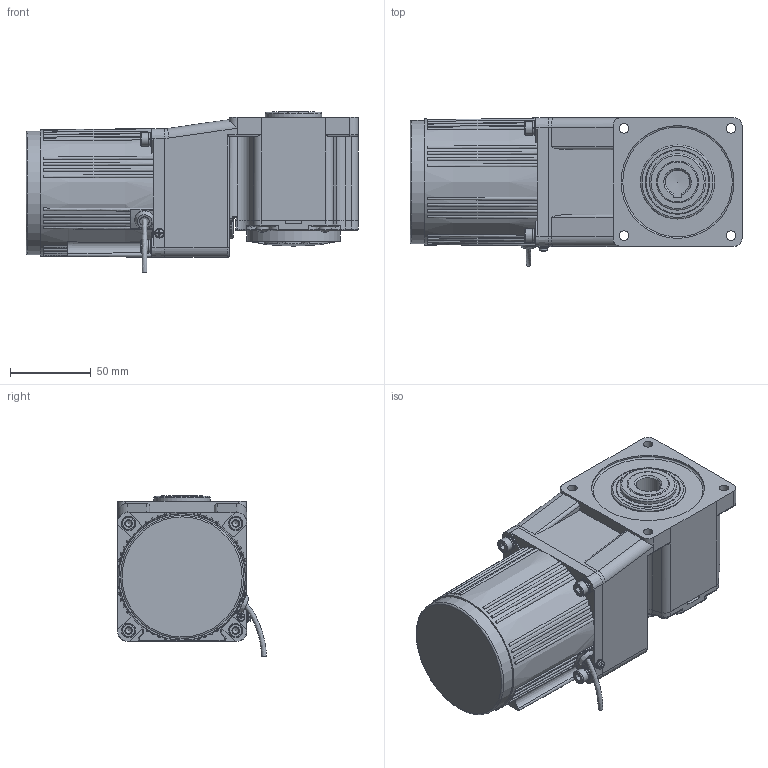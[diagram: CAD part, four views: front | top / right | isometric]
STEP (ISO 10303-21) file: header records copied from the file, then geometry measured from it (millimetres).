
FILE_DESCRIPTION(/* description */ (''),/* implementation_level */ '2;1');
FILE_NAME(/* name */ '80+中空直角-普通-25-40W新版.stp',/* time_stamp */ '2025-03-24T13:03:40+08:00',/* author */ (''),/* organization */ (''),/* preprocessor_version */ 'ST-DEVELOPER v18.102',/* originating_system */ 'SIEMENS PLM Software NX 2027',/* authorisation */ '');
FILE_SCHEMA (('AP203_CONFIGURATION_CONTROLLED_3D_DESIGN_OF_MECHANICAL_PARTS_AND_ASSEMBLIES_MIM_LF { 1 0 10303 403 2 1 2}'));
Length unit declared in the file: millimetre
Products named in the file (1): 4RK25-30CC-4GN25-750K-C·10L_stp_objects
Bounding box: 206 x 92.25 x 99.83 mm (x, y, z)
Volume: 1096392.6 mm3; surface area: 124894.6 mm2
Topology: 17 solids, 17 shells, 927 faces, 2202 edges, 1365 vertices
Faces by surface type: plane 395, cylinder 246, cone 96, torus 92, bspline 84, sphere 14
Full cylindrical faces by diameter (mm): 2.5 x2, 2.6 x1, 2.7 x1, 3.2 x1, 3.5 x2, 4.2 x4, 4.4 x1, 4.826 x4, 5 x9, 5.1 x1, 5.3 x4, 6 x10, 8 x4, 8.2 x1, 8.5 x4, 9 x4, 10.5 x1, 19 x1, 25 x1, 26 x3, 35 x1, 40 x2, 40.5 x1, 46 x1, 52 x1, 52.5 x1, 56 x1, 58 x1, 67 x1, 70 x1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
Entity records: 32575 total; most frequent: CARTESIAN_POINT 12975, ORIENTED_EDGE 3928, DIRECTION 3751, EDGE_CURVE 1964, AXIS2_PLACEMENT_3D 1540, VERTEX_POINT 1284, EDGE_LOOP 1161, ADVANCED_FACE 925
